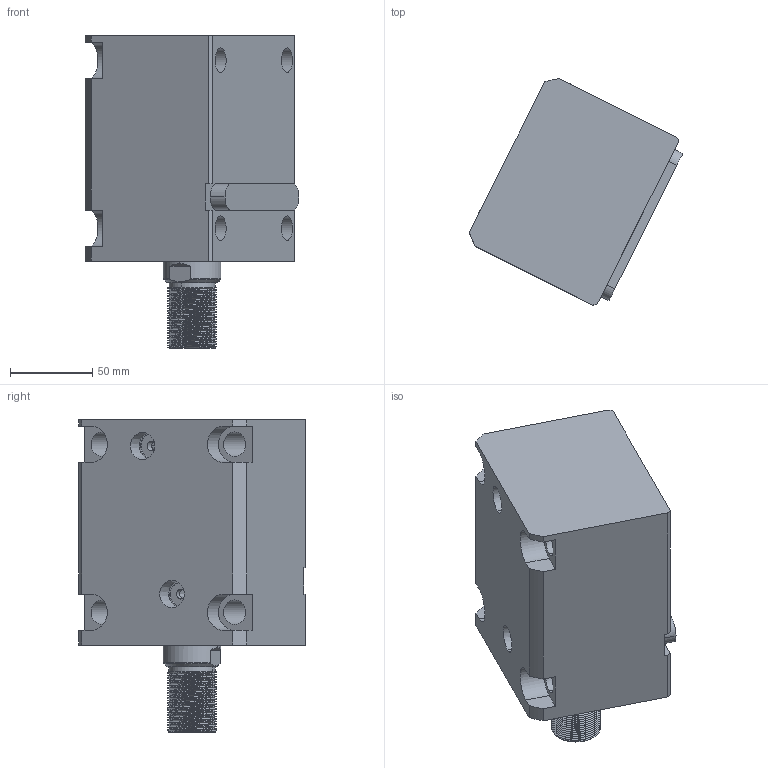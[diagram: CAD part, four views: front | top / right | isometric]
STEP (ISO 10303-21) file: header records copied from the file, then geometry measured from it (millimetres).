
FILE_DESCRIPTION (( 'STEP AP214' ), '1' );
FILE_NAME ('chtb-la63x70w_asm.STEP', '2018-05-17T03:09:35', ( 'Windows' ), ( 'Microsoft' ), 'SwSTEP 2.0', 'SolidWorks 2015', '' );
FILE_SCHEMA (( 'AUTOMOTIVE_DESIGN' ));
Length unit declared in the file: millimetre
Products named in the file (5): CHTB-LA63PJ; CHTB-LA63X70NBT; CHTB63X70WHSG; CHTB-63QG; chtb-la63x70w_asm
Assembly tree (4 placements, depth 2):
  chtb-la63x70w_asm
    CHTB-63QG
    CHTB63X70WHSG
    CHTB-LA63X70NBT
    CHTB-LA63PJ
Bounding box: 129.85 x 137.56 x 190 mm (x, y, z)
Volume: 1197261.5 mm3; surface area: 171253.9 mm2
Topology: 4 solids, 4 shells, 228 faces, 670 edges, 457 vertices
Faces by surface type: cylinder 147, plane 48, bspline 14, cone 13, torus 6
Entity records: 22769 total; most frequent: CARTESIAN_POINT 17126, ORIENTED_EDGE 1332, DIRECTION 940, EDGE_CURVE 666, VERTEX_POINT 457, AXIS2_PLACEMENT_3D 350, EDGE_LOOP 253, LINE 240
